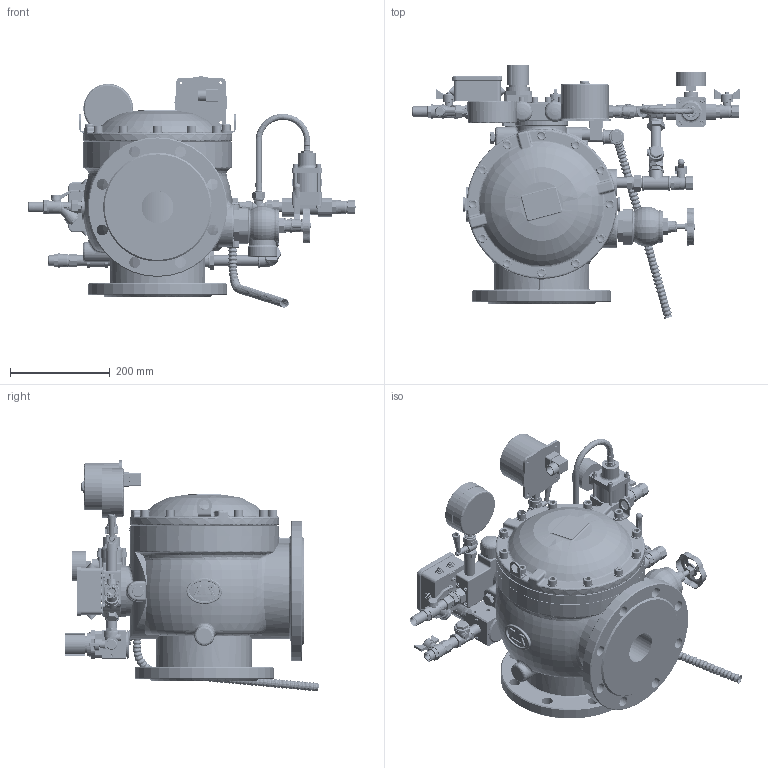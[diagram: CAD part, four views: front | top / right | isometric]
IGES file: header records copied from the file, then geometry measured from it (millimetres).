
Start section: File generated by T-FLEX CAD Version (null)
Global section: file name: 150      .igs; native system: T-FLEX CAD; date: 211014.134701; units: millimetre
Bounding box: 656.65 x 508.21 x 464.21 mm (x, y, z)
Volume: 21543914.6 mm3; surface area: 2301369.7 mm2
Topology: 379 solids, 416 shells, 18577 faces, 45590 edges, 27304 vertices
Faces by surface type: plane 6302, cylinder 5818, revolution 2297, bspline 1947, cone 1395, sphere 818
Full cylindrical faces by diameter (mm): 49 x1
